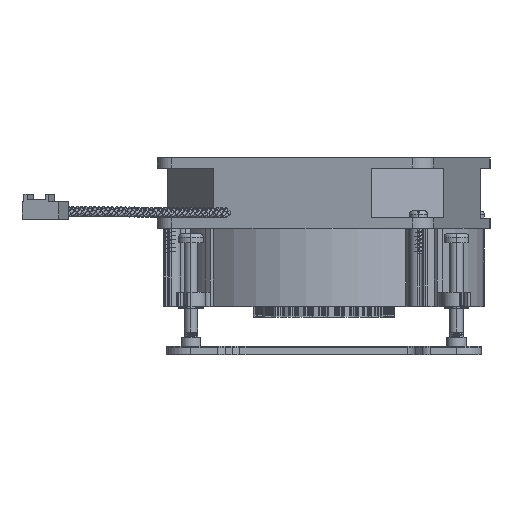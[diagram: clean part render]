
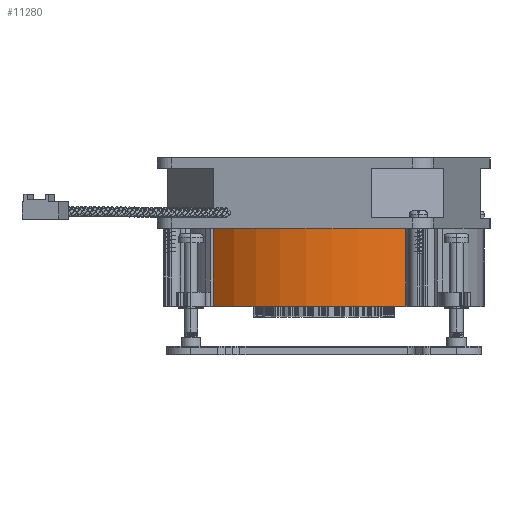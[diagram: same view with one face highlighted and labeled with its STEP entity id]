
A CAD part, top view. The second image highlights one B-rep face of the part: STEP entity #11280.
In plain terms, the highlighted cylindrical face has radius 45.1 mm (diameter 90.2 mm), a partial arc.
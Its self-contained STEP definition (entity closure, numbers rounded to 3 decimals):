
#96=DIRECTION('',(0.,-1.,0.));
#97=VECTOR('',#96,22.);
#98=CARTESIAN_POINT('',(1486.581,707.972,38.659));
#99=LINE('',#98,#97);
#455=CARTESIAN_POINT('',(1463.353,707.972,0.));
#456=DIRECTION('',(0.,-1.,0.));
#457=DIRECTION('',(0.515,0.,0.857));
#458=AXIS2_PLACEMENT_3D('',#455,#456,#457);
#773=CARTESIAN_POINT('',(1463.353,685.972,0.));
#774=DIRECTION('',(0.,-1.,0.));
#775=DIRECTION('',(0.515,0.,0.857));
#776=AXIS2_PLACEMENT_3D('',#773,#774,#775);
#7791=DIRECTION('',(0.,-1.,0.));
#7792=VECTOR('',#7791,22.);
#7793=CARTESIAN_POINT('',(1432.178,707.972,32.59));
#7794=LINE('',#7793,#7792);
#10070=CARTESIAN_POINT('',(1486.581,707.972,38.659));
#10071=CARTESIAN_POINT('',(1486.581,685.972,38.659));
#10072=VERTEX_POINT('',#10070);
#10073=VERTEX_POINT('',#10071);
#10468=CARTESIAN_POINT('',(1432.178,707.972,32.59));
#10469=CARTESIAN_POINT('',(1432.178,685.972,32.59));
#10470=VERTEX_POINT('',#10468);
#10471=VERTEX_POINT('',#10469);
#11266=CARTESIAN_POINT('',(1463.353,685.972,0.));
#11267=DIRECTION('',(0.,-1.,0.));
#11268=DIRECTION('',(1.,0.,0.));
#11269=AXIS2_PLACEMENT_3D('',#11266,#11267,#11268);
#11270=CYLINDRICAL_SURFACE('',#11269,45.1);
#11271=ORIENTED_EDGE('',*,*,#11207,.T.);
#11273=ORIENTED_EDGE('',*,*,#11272,.T.);
#11275=ORIENTED_EDGE('',*,*,#11274,.F.);
#11277=ORIENTED_EDGE('',*,*,#11276,.F.);
#11278=EDGE_LOOP('',(#11271,#11273,#11275,#11277));
#11279=FACE_OUTER_BOUND('',#11278,.F.);
#11280=ADVANCED_FACE('',(#11279),#11270,.T.);
#459=CIRCLE('',#458,45.1);
#777=CIRCLE('',#776,45.1);
#11207=EDGE_CURVE('',#10072,#10073,#99,.T.);
#11272=EDGE_CURVE('',#10073,#10471,#777,.T.);
#11274=EDGE_CURVE('',#10470,#10471,#7794,.T.);
#11276=EDGE_CURVE('',#10072,#10470,#459,.T.);
